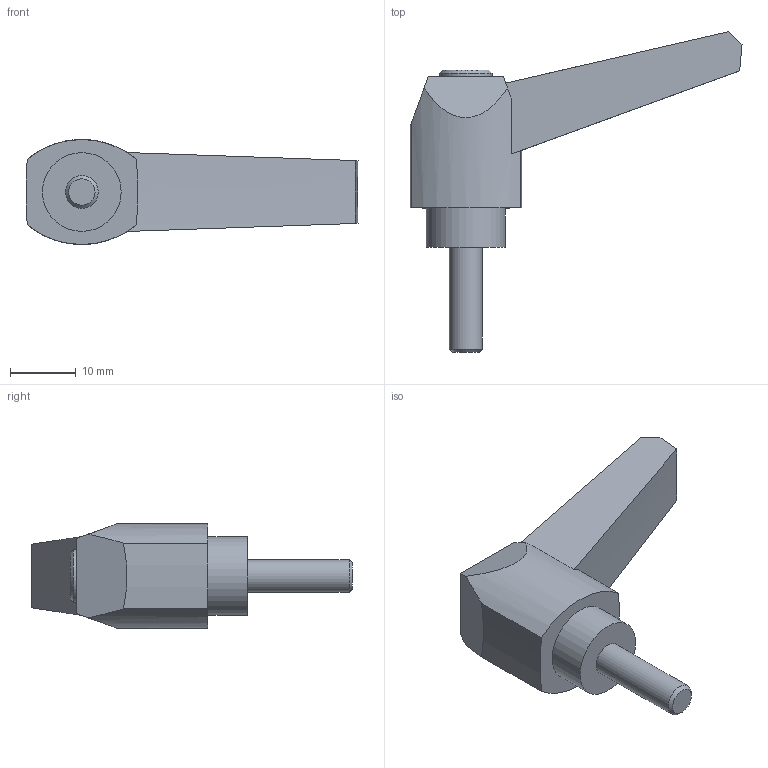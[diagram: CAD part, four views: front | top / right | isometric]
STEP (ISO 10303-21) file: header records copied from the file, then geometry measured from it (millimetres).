
FILE_DESCRIPTION( ( 'STEP AP203' ), '1' );
FILE_NAME( 'C:/Temp/Ganter_Step_05_03_2020/data/2_1/gn_500/gn_500_ms/Adjustable hand lever GN 500-42-M5-16-SW.stp', '2020-03-05T11:26:30', ( 'License CC BY-ND 4.0' ), ( 'CADENAS' ), ' ', 'PARTsolutions', ' ' );
FILE_SCHEMA( ( 'CONFIG_CONTROL_DESIGN' ) );
Length unit declared in the file: millimetre
Products named in the file (1): _Adjustable hand lever GN 500-42-M5-16-SW
Bounding box: 50.59 x 48.85 x 16 mm (x, y, z)
Volume: 8630.3 mm3; surface area: 3266.4 mm2
Topology: 1 solids, 1 shells, 24 faces, 56 edges, 37 vertices
Faces by surface type: plane 11, cylinder 7, cone 6
Full cylindrical faces by diameter (mm): 5 x1, 8 x1, 12 x1
Entity records: 708 total; most frequent: CARTESIAN_POINT 123, DIRECTION 118, ORIENTED_EDGE 100, EDGE_CURVE 50, AXIS2_PLACEMENT_3D 47, VERTEX_POINT 36, EDGE_LOOP 32, FACE_OUTER_BOUND 27
